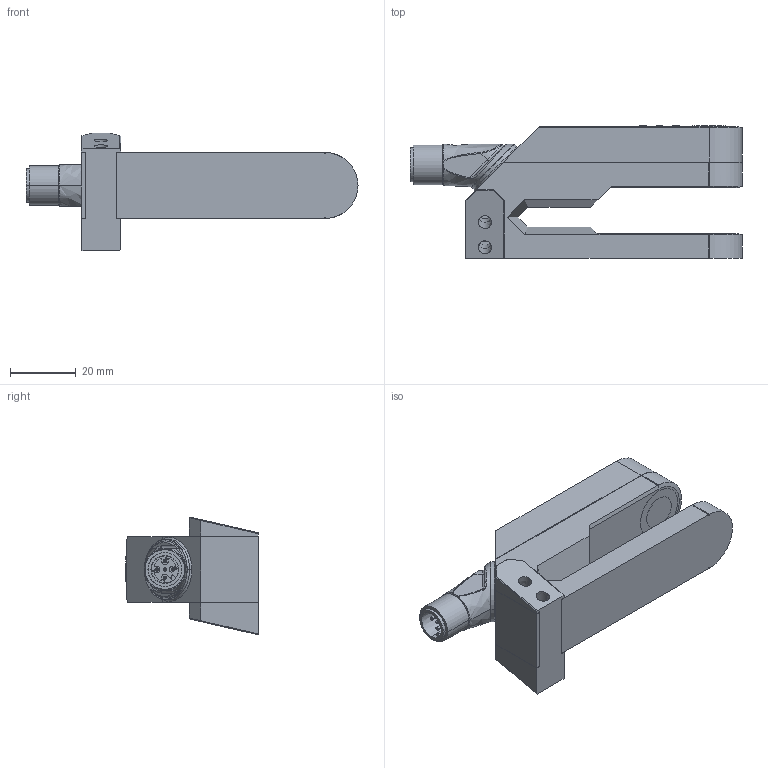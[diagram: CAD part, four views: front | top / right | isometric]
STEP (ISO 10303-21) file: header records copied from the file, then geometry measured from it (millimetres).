
FILE_DESCRIPTION (( 'STEP AP214' ), '1' );
FILE_NAME ('esf+1_CFF_200kHz_HV_LV.STEP', '2025-08-12T15:09:12', ( '' ), ( '' ), 'SwSTEP 2.0', 'SolidWorks 2024', '' );
FILE_SCHEMA (( 'AUTOMOTIVE_DESIGN' ));
Length unit declared in the file: millimetre
Products named in the file (6): esf+1_CFF_200kHz_HV_LV; Fase2_1_1.STEP; 13Grad Block; 13Grad Block.STEP; 5pol. drehbarer Stecker; esf+1_200 kHz Gehäusebody
Assembly tree (5 placements, depth 4):
  esf+1_CFF_200kHz_HV_LV
    esf+1_200 kHz Gehäusebody
    13Grad Block
      13Grad Block.STEP
        Fase2_1_1.STEP
    5pol. drehbarer Stecker
Bounding box: 100.74 x 40.31 x 35.71 mm (x, y, z)
Volume: 49499 mm3; surface area: 17917.2 mm2
Topology: 7 solids, 7 shells, 1389 faces, 3888 edges, 2505 vertices
Faces by surface type: plane 459, cylinder 429, bspline 363, cone 100, torus 36, sphere 2
Entity records: 70535 total; most frequent: CARTESIAN_POINT 26452, ORIENTED_EDGE 7704, DIRECTION 4909, EDGE_CURVE 3852, VERTEX_POINT 2503, AXIS2_PLACEMENT_3D 1663, VECTOR 1583, LINE 1583
